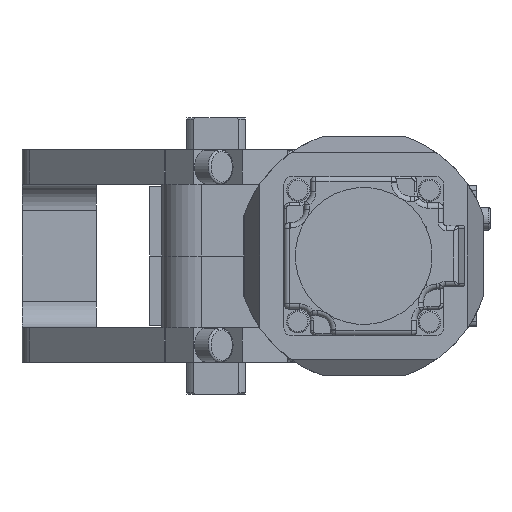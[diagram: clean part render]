
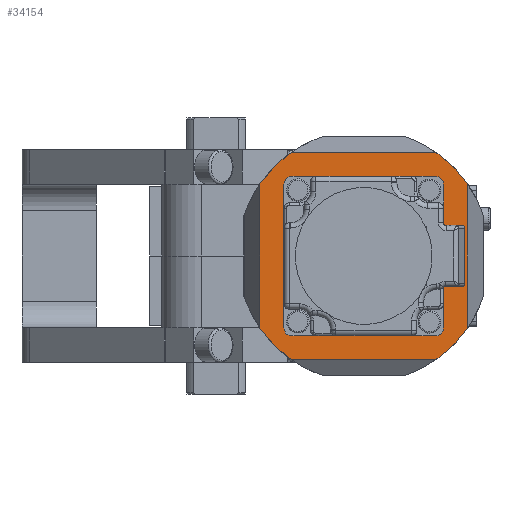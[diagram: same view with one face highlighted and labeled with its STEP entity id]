
A CAD part, front view. The second image highlights one B-rep face of the part: STEP entity #34154.
In plain terms, the highlighted planar face has unit normal (0, -1, 0).
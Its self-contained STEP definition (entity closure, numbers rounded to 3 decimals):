
#101 = PLANE ( 'NONE',  #302 ) ;
#302 = AXIS2_PLACEMENT_3D ( 'NONE', #36331, #28415, #64249 ) ;
#2974 = CARTESIAN_POINT ( 'NONE',  ( 1.363, -110.01, 58.346 ) ) ;
#5551 = CIRCLE ( 'NONE', #50080, 47.5 ) ;
#5796 = ORIENTED_EDGE ( 'NONE', *, *, #50315, .T. ) ;
#7347 = CIRCLE ( 'NONE', #53383, 47.5 ) ;
#8982 = DIRECTION ( 'NONE',  ( 0., 1., 0. ) ) ;
#9858 = CARTESIAN_POINT ( 'NONE',  ( -64.752, -110.01, 70.23 ) ) ;
#12076 = LINE ( 'NONE', #32066, #24230 ) ;
#12778 = VECTOR ( 'NONE', #42535, 1000. ) ;
#13205 = EDGE_CURVE ( 'NONE', #52896, #66427, #51110, .T. ) ;
#17252 = EDGE_CURVE ( 'NONE', #38502, #63819, #7347, .T. ) ;
#18640 = ORIENTED_EDGE ( 'NONE', *, *, #63793, .T. ) ;
#19838 = LINE ( 'NONE', #34233, #57272 ) ;
#20894 = CARTESIAN_POINT ( 'NONE',  ( -37.637, -110.01, -7.77 ) ) ;
#22609 = CARTESIAN_POINT ( 'NONE',  ( -76.637, -110.01, 58.346 ) ) ;
#23451 = CARTESIAN_POINT ( 'NONE',  ( -37.637, -110.01, 31.23 ) ) ;
#24230 = VECTOR ( 'NONE', #60897, 1000. ) ;
#25225 = ORIENTED_EDGE ( 'NONE', *, *, #17252, .F. ) ;
#27121 = AXIS2_PLACEMENT_3D ( 'NONE', #84503, #48740, #56164 ) ;
#28415 = DIRECTION ( 'NONE',  ( 0., 1., 0. ) ) ;
#29237 = DIRECTION ( 'NONE',  ( 0., 1., 0. ) ) ;
#29639 = ORIENTED_EDGE ( 'NONE', *, *, #52713, .F. ) ;
#31631 = VERTEX_POINT ( 'NONE', #76899 ) ;
#32066 = CARTESIAN_POINT ( 'NONE',  ( -76.637, -110.01, 31.23 ) ) ;
#34154 = ADVANCED_FACE ( 'NONE', ( #63783 ), #101, .F. ) ;
#34233 = CARTESIAN_POINT ( 'NONE',  ( 1.363, -110.01, 31.23 ) ) ;
#35319 = DIRECTION ( 'NONE',  ( 1., 0., 0. ) ) ;
#36331 = CARTESIAN_POINT ( 'NONE',  ( -37.637, -110.01, 31.23 ) ) ;
#36865 = ORIENTED_EDGE ( 'NONE', *, *, #13205, .F. ) ;
#38266 = VERTEX_POINT ( 'NONE', #91135 ) ;
#38502 = VERTEX_POINT ( 'NONE', #65775 ) ;
#41514 = EDGE_LOOP ( 'NONE', ( #29639, #18640, #43958, #70348, #36865, #5796, #25225, #60896 ) ) ;
#42156 = DIRECTION ( 'NONE',  ( 0., 0., 1. ) ) ;
#42535 = DIRECTION ( 'NONE',  ( -1., 0., 0. ) ) ;
#43085 = EDGE_CURVE ( 'NONE', #38266, #53609, #5551, .T. ) ;
#43206 = CARTESIAN_POINT ( 'NONE',  ( -37.637, -110.01, 31.23 ) ) ;
#43845 = DIRECTION ( 'NONE',  ( 0., 0., -1. ) ) ;
#43958 = ORIENTED_EDGE ( 'NONE', *, *, #43085, .F. ) ;
#48740 = DIRECTION ( 'NONE',  ( 0., 1., 0. ) ) ;
#50080 = AXIS2_PLACEMENT_3D ( 'NONE', #23451, #87607, #72323 ) ;
#50187 = VECTOR ( 'NONE', #35319, 1000. ) ;
#50194 = DIRECTION ( 'NONE',  ( 0., 0., -1. ) ) ;
#50315 = EDGE_CURVE ( 'NONE', #52896, #63819, #12076, .T. ) ;
#51110 = CIRCLE ( 'NONE', #27121, 47.5 ) ;
#52713 = EDGE_CURVE ( 'NONE', #86358, #31631, #91007, .T. ) ;
#52896 = VERTEX_POINT ( 'NONE', #22609 ) ;
#53383 = AXIS2_PLACEMENT_3D ( 'NONE', #72670, #8982, #43845 ) ;
#53609 = VERTEX_POINT ( 'NONE', #2974 ) ;
#56164 = DIRECTION ( 'NONE',  ( 0., 0., -1. ) ) ;
#56747 = EDGE_CURVE ( 'NONE', #38266, #66427, #70466, .T. ) ;
#57272 = VECTOR ( 'NONE', #42156, 1000. ) ;
#60896 = ORIENTED_EDGE ( 'NONE', *, *, #84129, .T. ) ;
#60897 = DIRECTION ( 'NONE',  ( 0., 0., -1. ) ) ;
#63783 = FACE_OUTER_BOUND ( 'NONE', #41514, .T. ) ;
#63793 = EDGE_CURVE ( 'NONE', #86358, #53609, #19838, .T. ) ;
#63819 = VERTEX_POINT ( 'NONE', #70540 ) ;
#64249 = DIRECTION ( 'NONE',  ( 0., 0., -1. ) ) ;
#65775 = CARTESIAN_POINT ( 'NONE',  ( -64.752, -110.01, -7.77 ) ) ;
#66427 = VERTEX_POINT ( 'NONE', #9858 ) ;
#70000 = CARTESIAN_POINT ( 'NONE',  ( -37.637, -110.01, 70.23 ) ) ;
#70348 = ORIENTED_EDGE ( 'NONE', *, *, #56747, .T. ) ;
#70466 = LINE ( 'NONE', #70000, #12778 ) ;
#70540 = CARTESIAN_POINT ( 'NONE',  ( -76.637, -110.01, 4.115 ) ) ;
#71596 = LINE ( 'NONE', #20894, #50187 ) ;
#72323 = DIRECTION ( 'NONE',  ( 0., 0., -1. ) ) ;
#72670 = CARTESIAN_POINT ( 'NONE',  ( -37.637, -110.01, 31.23 ) ) ;
#76034 = CARTESIAN_POINT ( 'NONE',  ( 1.363, -110.01, 4.115 ) ) ;
#76899 = CARTESIAN_POINT ( 'NONE',  ( -10.522, -110.01, -7.77 ) ) ;
#79116 = AXIS2_PLACEMENT_3D ( 'NONE', #43206, #29237, #50194 ) ;
#84129 = EDGE_CURVE ( 'NONE', #38502, #31631, #71596, .T. ) ;
#84503 = CARTESIAN_POINT ( 'NONE',  ( -37.637, -110.01, 31.23 ) ) ;
#86358 = VERTEX_POINT ( 'NONE', #76034 ) ;
#87607 = DIRECTION ( 'NONE',  ( 0., 1., 0. ) ) ;
#91007 = CIRCLE ( 'NONE', #79116, 47.5 ) ;
#91135 = CARTESIAN_POINT ( 'NONE',  ( -10.522, -110.01, 70.23 ) ) ;
